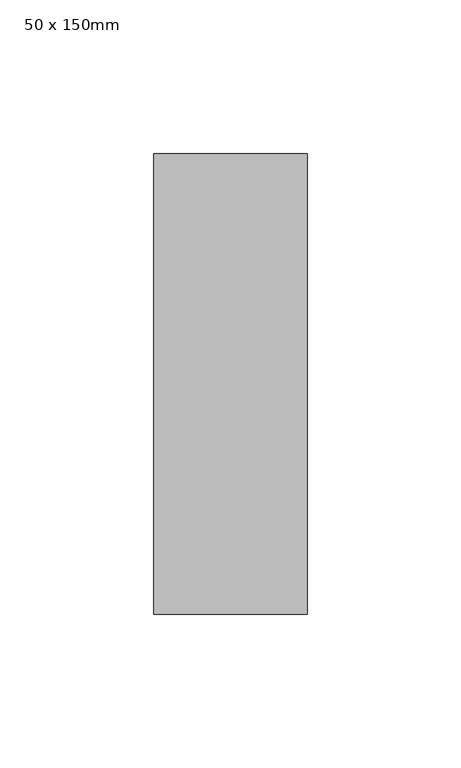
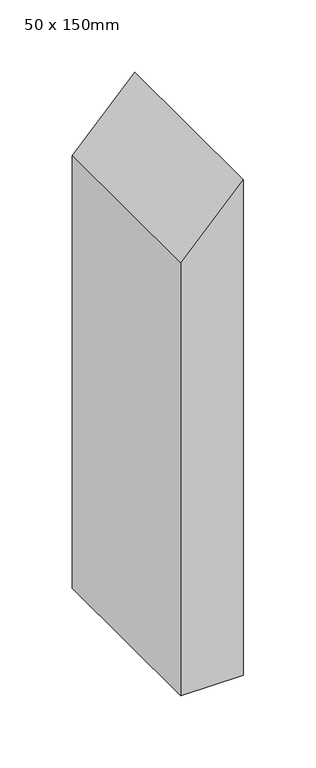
"""IFC4 building model written with IfcOpenShell, lengths in millimetres: member geometry, Прямоугольный импост : 50 x 150mm."""

from ifc_helpers import new_model, si_unit, frame, origin, place, context, project, spatial, polyline, outline, extrude, source, transform, mapped, element, save


def member_50_x_150mm_66bb29c6(model_context):
    return source(origin(), model_context, "Body", "SweptSolid", [
        extrude(outline(polyline([(0.0, 0.0), (-52.8331825, -50.0), (-418.134306, -50.0), (-418.134306, 0.0), (0.0, 0.0)])), frame((0.0, -75.0, 0.0), z_axis=(0.0, 1.0, 0.0), x_axis=(0.0, 0.0, 1.0)), (0.0, 0.0, 1.0), 150.0),
    ])


if __name__ == "__main__":
    model = new_model("IFC4")
    model_context = context("Model", 3, world=origin())
    ifc_project = project(units=[si_unit("LENGTHUNIT", "METRE", prefix="MILLI")], contexts=[model_context])
    site = spatial("IfcSite", under=ifc_project)
    building = spatial("IfcBuilding", under=site)
    placement = place(None, origin())
    member_50_x_150mm_shape = member_50_x_150mm_66bb29c6(model_context)
    element("IfcMember", 1, ObjectType="Прямоугольный импост : 50 x 150mm", at=placement, inside=building, context=model_context, shape_type="MappedRepresentation", body=[
        mapped(member_50_x_150mm_shape, transform((0.0, 0.0, 0.0), x_axis=(1.0, 0.0, 0.0), y_axis=(0.0, 1.0, 0.0), z_axis=(0.0, 0.0, 1.0))),
    ])
    save(model, "model.ifc")
